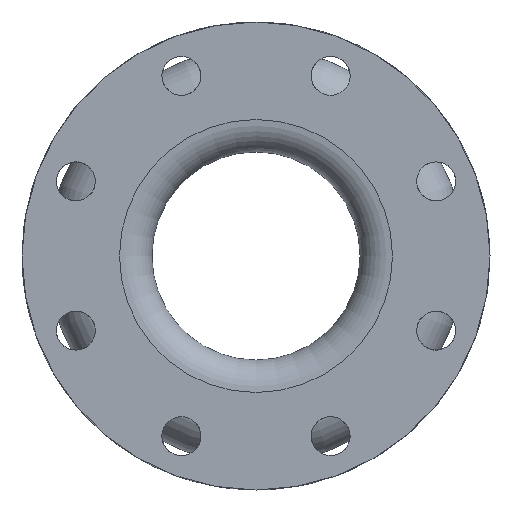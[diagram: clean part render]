
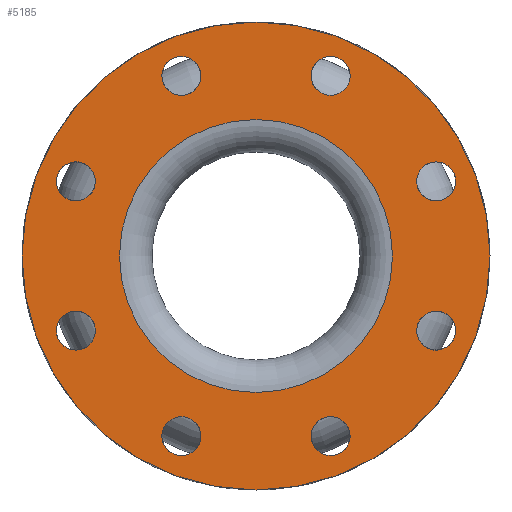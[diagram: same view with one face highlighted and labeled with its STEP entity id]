
A CAD part, left-side view. The second image highlights one B-rep face of the part: STEP entity #5185.
In plain terms, the highlighted planar face has unit normal (-1, 0, 0).
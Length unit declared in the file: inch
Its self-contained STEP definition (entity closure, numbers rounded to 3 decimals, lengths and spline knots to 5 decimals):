
#95=FACE_BOUND('',#1014,.T.);
#96=FACE_BOUND('',#1015,.T.);
#97=FACE_BOUND('',#1016,.T.);
#98=FACE_BOUND('',#1017,.T.);
#99=FACE_BOUND('',#1018,.T.);
#100=FACE_BOUND('',#1019,.T.);
#101=FACE_BOUND('',#1020,.T.);
#102=FACE_BOUND('',#1021,.T.);
#103=FACE_BOUND('',#1022,.T.);
#630=FACE_OUTER_BOUND('',#1013,.T.);
#1013=EDGE_LOOP('',(#4436));
#1014=EDGE_LOOP('',(#4437));
#1015=EDGE_LOOP('',(#4438));
#1016=EDGE_LOOP('',(#4439));
#1017=EDGE_LOOP('',(#4440));
#1018=EDGE_LOOP('',(#4441));
#1019=EDGE_LOOP('',(#4442));
#1020=EDGE_LOOP('',(#4443));
#1021=EDGE_LOOP('',(#4444));
#1022=EDGE_LOOP('',(#4445));
#1931=CIRCLE('',#5906,0.375);
#1933=CIRCLE('',#5909,0.375);
#1934=CIRCLE('',#5911,0.375);
#1935=CIRCLE('',#5913,0.375);
#1936=CIRCLE('',#5915,0.375);
#1937=CIRCLE('',#5917,0.375);
#1938=CIRCLE('',#5919,0.375);
#1939=CIRCLE('',#5921,0.375);
#1947=CIRCLE('',#5936,2.625);
#1948=CIRCLE('',#5938,4.5);
#2390=VERTEX_POINT('',#9269);
#2391=VERTEX_POINT('',#9273);
#2392=VERTEX_POINT('',#9276);
#2393=VERTEX_POINT('',#9279);
#2394=VERTEX_POINT('',#9282);
#2395=VERTEX_POINT('',#9285);
#2396=VERTEX_POINT('',#9288);
#2397=VERTEX_POINT('',#9291);
#2405=VERTEX_POINT('',#9314);
#2406=VERTEX_POINT('',#9317);
#3079=EDGE_CURVE('',#2390,#2390,#1931,.T.);
#3081=EDGE_CURVE('',#2391,#2391,#1933,.T.);
#3082=EDGE_CURVE('',#2392,#2392,#1934,.T.);
#3083=EDGE_CURVE('',#2393,#2393,#1935,.T.);
#3084=EDGE_CURVE('',#2394,#2394,#1936,.T.);
#3085=EDGE_CURVE('',#2395,#2395,#1937,.T.);
#3086=EDGE_CURVE('',#2396,#2396,#1938,.T.);
#3087=EDGE_CURVE('',#2397,#2397,#1939,.T.);
#3095=EDGE_CURVE('',#2405,#2405,#1947,.T.);
#3096=EDGE_CURVE('',#2406,#2406,#1948,.T.);
#4436=ORIENTED_EDGE('',*,*,#3096,.F.);
#4437=ORIENTED_EDGE('',*,*,#3095,.T.);
#4438=ORIENTED_EDGE('',*,*,#3079,.T.);
#4439=ORIENTED_EDGE('',*,*,#3081,.T.);
#4440=ORIENTED_EDGE('',*,*,#3082,.T.);
#4441=ORIENTED_EDGE('',*,*,#3083,.T.);
#4442=ORIENTED_EDGE('',*,*,#3084,.T.);
#4443=ORIENTED_EDGE('',*,*,#3085,.T.);
#4444=ORIENTED_EDGE('',*,*,#3086,.T.);
#4445=ORIENTED_EDGE('',*,*,#3087,.T.);
#4583=PLANE('',#5937);
#5185=ADVANCED_FACE('',(#630,#95,#96,#97,#98,#99,#100,#101,#102,#103),#4583,
 .T.);
#5906=AXIS2_PLACEMENT_3D('',#9270,#7597,#7598);
#5909=AXIS2_PLACEMENT_3D('',#9274,#7603,#7604);
#5911=AXIS2_PLACEMENT_3D('',#9277,#7607,#7608);
#5913=AXIS2_PLACEMENT_3D('',#9280,#7611,#7612);
#5915=AXIS2_PLACEMENT_3D('',#9283,#7615,#7616);
#5917=AXIS2_PLACEMENT_3D('',#9286,#7619,#7620);
#5919=AXIS2_PLACEMENT_3D('',#9289,#7623,#7624);
#5921=AXIS2_PLACEMENT_3D('',#9292,#7627,#7628);
#5936=AXIS2_PLACEMENT_3D('',#9315,#7657,#7658);
#5937=AXIS2_PLACEMENT_3D('',#9316,#7659,#7660);
#5938=AXIS2_PLACEMENT_3D('',#9318,#7661,#7662);
#7597=DIRECTION('center_axis',(1.,0.,0.));
#7598=DIRECTION('ref_axis',(0.,-0.707,-0.707));
#7603=DIRECTION('center_axis',(1.,0.,0.));
#7604=DIRECTION('ref_axis',(0.,-1.,0.));
#7607=DIRECTION('center_axis',(1.,0.,0.));
#7608=DIRECTION('ref_axis',(0.,-0.707,0.707));
#7611=DIRECTION('center_axis',(1.,0.,0.));
#7612=DIRECTION('ref_axis',(0.,0.,
1.));
#7615=DIRECTION('center_axis',(1.,0.,0.));
#7616=DIRECTION('ref_axis',(0.,0.707,0.707));
#7619=DIRECTION('center_axis',(1.,0.,0.));
#7620=DIRECTION('ref_axis',(0.,1.,0.));
#7623=DIRECTION('center_axis',(1.,0.,0.));
#7624=DIRECTION('ref_axis',(0.,0.707,-0.707));
#7627=DIRECTION('center_axis',(1.,0.,0.));
#7628=DIRECTION('ref_axis',(0.,0.,-1.));
#7657=DIRECTION('center_axis',(1.,0.,0.));
#7658=DIRECTION('ref_axis',(0.,0.,-1.));
#7659=DIRECTION('center_axis',(-1.,0.,0.));
#7660=DIRECTION('ref_axis',(0.,0.,1.));
#7661=DIRECTION('center_axis',(1.,0.,0.));
#7662=DIRECTION('ref_axis',(0.,0.,-1.));
#9269=CARTESIAN_POINT('',(-3.,1.70023,-3.19938));
#9270=CARTESIAN_POINT('Origin',(-3.,1.43506,-3.46455));
#9273=CARTESIAN_POINT('',(-3.,-1.06006,-3.46455));
#9274=CARTESIAN_POINT('Origin',(-3.,-1.43506,-3.46455));
#9276=CARTESIAN_POINT('',(-3.,-3.19938,-1.70023));
#9277=CARTESIAN_POINT('Origin',(-3.,-3.46455,-1.43506));
#9279=CARTESIAN_POINT('',(-3.,-3.46455,1.06006));
#9280=CARTESIAN_POINT('Origin',(-3.,-3.46455,1.43506));
#9282=CARTESIAN_POINT('',(-3.,-1.70023,3.19938));
#9283=CARTESIAN_POINT('Origin',(-3.,-1.43506,3.46455));
#9285=CARTESIAN_POINT('',(-3.,1.06006,3.46455));
#9286=CARTESIAN_POINT('Origin',(-3.,1.43506,3.46455));
#9288=CARTESIAN_POINT('',(-3.,3.19938,1.70023));
#9289=CARTESIAN_POINT('Origin',(-3.,3.46455,1.43506));
#9291=CARTESIAN_POINT('',(-3.,3.46455,-1.06006));
#9292=CARTESIAN_POINT('Origin',(-3.,3.46455,-1.43506));
#9314=CARTESIAN_POINT('',(-3.,2.625,0.));
#9315=CARTESIAN_POINT('Origin',(-3.,0.,0.));
#9316=CARTESIAN_POINT('Origin',(-3.,4.5,0.));
#9317=CARTESIAN_POINT('',(-3.,4.5,0.));
#9318=CARTESIAN_POINT('Origin',(-3.,0.,0.));
